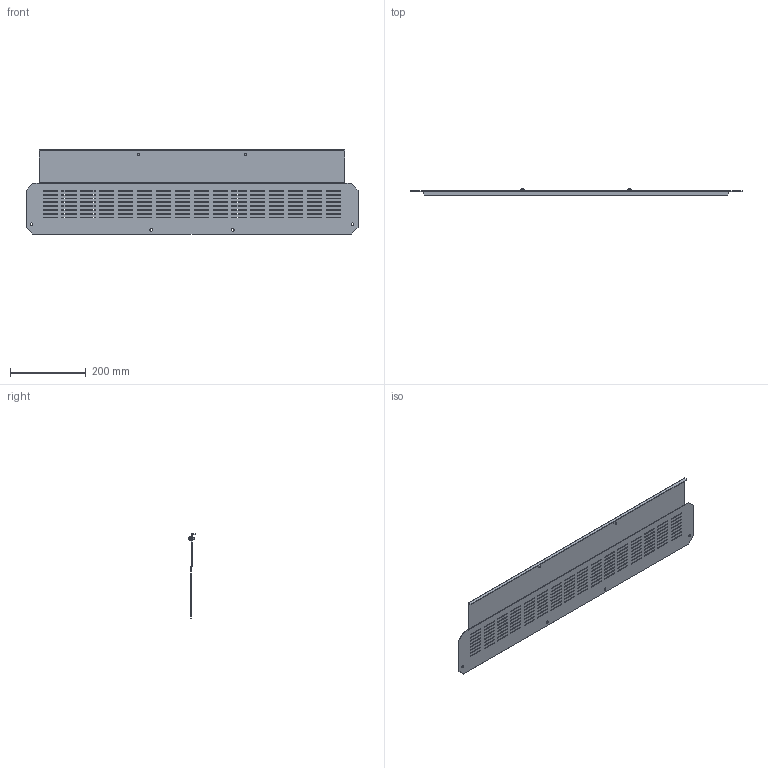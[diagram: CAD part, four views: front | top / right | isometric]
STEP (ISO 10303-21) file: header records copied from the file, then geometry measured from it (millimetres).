
FILE_DESCRIPTION (( 'STEP AP214' ), '1' );
FILE_NAME ('FO-00-FBCV-020-100 Ôëàíåö îñíîâàíèÿ âñòðîåííîãî îòñåêà âåíòèëèðóåìûé 200õ1000 ìì.STEP', '2025-07-31T07:08:08', ( '' ), ( '' ), 'SwSTEP 2.0', 'SolidWorks 2023', '' );
FILE_SCHEMA (( 'AUTOMOTIVE_DESIGN' ));
Length unit declared in the file: millimetre
Products named in the file (1): FO-00-FBCV-020-100 Фланец основания встроенного отсека вентилируемый 200х1000 мм
Bounding box: 879 x 16 x 222.5 mm (x, y, z)
Volume: 280307.2 mm3; surface area: 391547.5 mm2
Topology: 1 solids, 1 shells, 618 faces, 1808 edges, 1200 vertices
Faces by surface type: plane 552, cylinder 50, cone 8, torus 8
Entity records: 20699 total; most frequent: CARTESIAN_POINT 3627, ORIENTED_EDGE 3616, DIRECTION 3170, EDGE_CURVE 1808, LINE 1684, VECTOR 1684, VERTEX_POINT 1200, EDGE_LOOP 890
